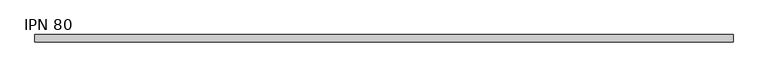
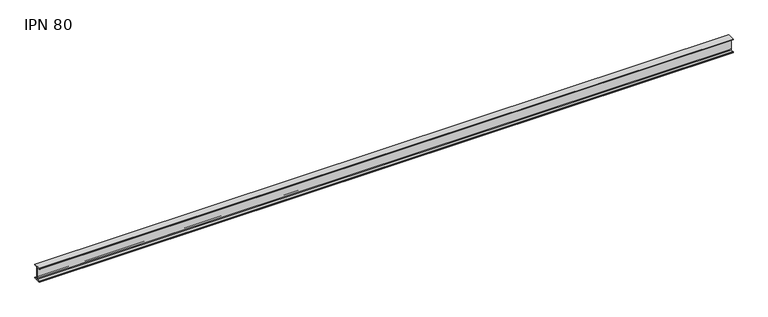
"""IFC4 building model written with IfcOpenShell, lengths in millimetres: beam geometry, IPN - Secciones en I con alas cónicas : IPN 80."""

from ifc_helpers import new_model, si_unit, point, frame, frame_2d, origin, place, context, project, spatial, polyline, circle_curve, trimmed, segment, composite_curve, outline, extrude, source, transform, mapped, element, save


def ipn_80_984d361e(model_context):
    return source(origin(), model_context, "Body", "SweptSolid", [
        extrude(outline(composite_curve([segment(polyline([(21.0, 40.0), (21.0, 37.5704306)]), True, "CONTINUOUS"), segment(trimmed(circle_curve(frame_2d((18.7, 37.5704306)), 2.3), [point((21.0, 37.5704306))], [point((19.01889, 35.2926446))], False, "CARTESIAN"), True, "CONTINUOUS"), segment(polyline([(19.01889, 35.2926446), (5.3092734, 33.3732983)]), True, "CONTINUOUS"), segment(trimmed(circle_curve(frame_2d((5.85, 29.5109655)), 3.9), [point((5.3092734, 33.3732983))], [point((1.95, 29.5109655))], True, "CARTESIAN"), True, "CONTINUOUS"), segment(polyline([(1.95, 29.5109655), (1.95, -29.5109655)]), True, "CONTINUOUS"), segment(trimmed(circle_curve(frame_2d((5.85, -29.5109655)), 3.9), [point((1.95, -29.5109655))], [point((5.3092734, -33.3732983))], True, "CARTESIAN"), True, "CONTINUOUS"), segment(polyline([(5.3092734, -33.3732983), (19.01889, -35.2926446)]), True, "CONTINUOUS"), segment(trimmed(circle_curve(frame_2d((18.7, -37.5704306)), 2.3), [point((19.01889, -35.2926446))], [point((21.0, -37.5704306))], False, "CARTESIAN"), True, "CONTINUOUS"), segment(polyline([(21.0, -37.5704306), (21.0, -40.0), (-21.0, -40.0), (-21.0, -37.5704306)]), True, "CONTINUOUS"), segment(trimmed(circle_curve(frame_2d((-18.7, -37.5704306)), 2.3), [point((-21.0, -37.5704306))], [point((-19.01889, -35.2926446))], False, "CARTESIAN"), True, "CONTINUOUS"), segment(polyline([(-19.01889, -35.2926446), (-5.3092734, -33.3732983)]), True, "CONTINUOUS"), segment(trimmed(circle_curve(frame_2d((-5.85, -29.5109655)), 3.9), [point((-5.3092734, -33.3732983))], [point((-1.95, -29.5109655))], True, "CARTESIAN"), True, "CONTINUOUS"), segment(polyline([(-1.95, -29.5109655), (-1.95, 29.5109655)]), True, "CONTINUOUS"), segment(trimmed(circle_curve(frame_2d((-5.85, 29.5109655)), 3.9), [point((-1.95, 29.5109655))], [point((-5.3092734, 33.3732983))], True, "CARTESIAN"), True, "CONTINUOUS"), segment(polyline([(-5.3092734, 33.3732983), (-19.01889, 35.2926446)]), True, "CONTINUOUS"), segment(trimmed(circle_curve(frame_2d((-18.7, 37.5704306)), 2.3), [point((-19.01889, 35.2926446))], [point((-21.0, 37.5704306))], False, "CARTESIAN"), True, "CONTINUOUS"), segment(polyline([(-21.0, 37.5704306), (-21.0, 40.0), (21.0, 40.0)]), True, "CONTINUOUS")], self_intersect=False)), frame((-1964.85, 0.0, 0.0), z_axis=(1.0, 0.0, 0.0), x_axis=(0.0, 1.0, 0.0)), (0.0, 0.0, 1.0), 3880.65),
    ])


if __name__ == "__main__":
    model = new_model("IFC4")
    model_context = context("Model", 3, world=origin())
    ifc_project = project(units=[si_unit("LENGTHUNIT", "METRE", prefix="MILLI")], contexts=[model_context])
    site = spatial("IfcSite", under=ifc_project)
    building = spatial("IfcBuilding", under=site)
    placement = place(None, origin())
    ipn_80_shape = ipn_80_984d361e(model_context)
    element("IfcBeam", 1, ObjectType="IPN - Secciones en I con alas cónicas : IPN 80", at=placement, inside=building, context=model_context, shape_type="MappedRepresentation", body=[
        mapped(ipn_80_shape, transform((0.0, 0.0, 0.0), x_axis=(1.0, 0.0, 0.0), y_axis=(0.0, 1.0, 0.0), z_axis=(0.0, 0.0, 1.0))),
    ])
    save(model, "model.ifc")
